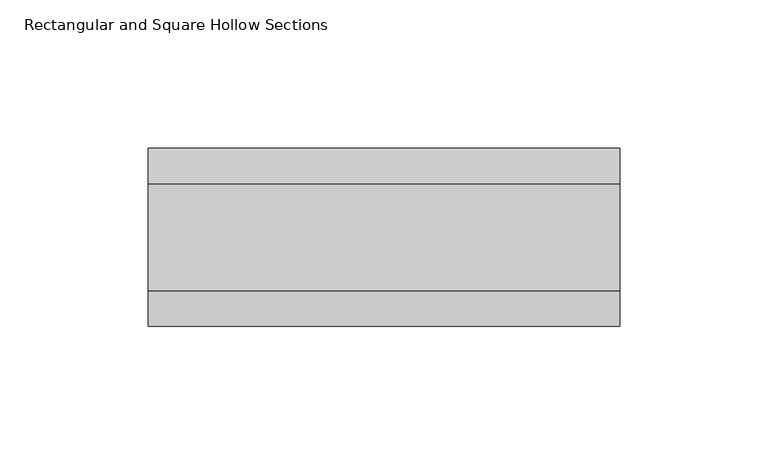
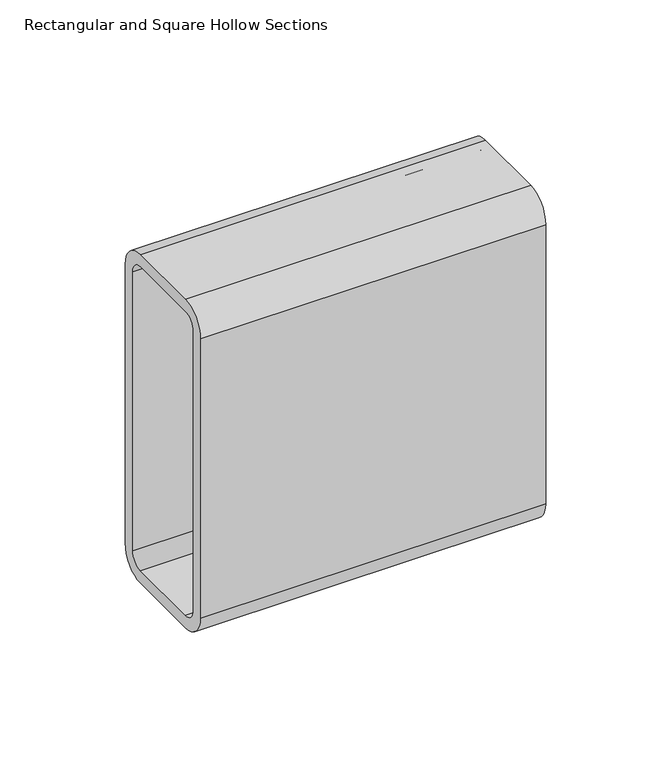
"""IFC4 building model written with IfcOpenShell, lengths in millimetres: beam geometry, Rectangular and Square Hollow Sections : TREC160x60x6."""

from ifc_helpers import new_model, si_unit, point, frame, frame_2d, origin, place, context, project, spatial, polyline, circle_curve, trimmed, segment, composite_curve, outline, extrude, source, transform, mapped, element, save


def rectangular_and_square_hollow_sections_a0dfe2d4(model_context):
    return source(origin(), model_context, "Body", "SweptSolid", [
        extrude(outline(composite_curve([segment(polyline([(30.0, 68.0), (30.0, -68.0)]), True, "CONTINUOUS"), segment(trimmed(circle_curve(frame_2d((18.0, -68.0)), 12.0), [point((30.0, -68.0))], [point((18.0, -80.0))], False, "CARTESIAN"), True, "CONTINUOUS"), segment(polyline([(18.0, -80.0), (-18.0, -80.0)]), True, "CONTINUOUS"), segment(trimmed(circle_curve(frame_2d((-18.0, -68.0)), 12.0), [point((-18.0, -80.0))], [point((-30.0, -68.0))], False, "CARTESIAN"), True, "CONTINUOUS"), segment(polyline([(-30.0, -68.0), (-30.0, 68.0)]), True, "CONTINUOUS"), segment(trimmed(circle_curve(frame_2d((-18.0, 68.0)), 12.0), [point((-30.0, 68.0))], [point((-18.0, 80.0))], False, "CARTESIAN"), True, "CONTINUOUS"), segment(polyline([(-18.0, 80.0), (18.0, 80.0)]), True, "CONTINUOUS"), segment(trimmed(circle_curve(frame_2d((18.0, 68.0)), 12.0), [point((18.0, 80.0))], [point((30.0, 68.0))], False, "CARTESIAN"), True, "CONTINUOUS")], self_intersect=False), holes=[composite_curve([segment(trimmed(circle_curve(frame_2d((-18.0, 68.0)), 6.0), [point((-18.0, 74.0))], [point((-24.0, 68.0))], True, "CARTESIAN"), True, "CONTINUOUS"), segment(polyline([(-24.0, 68.0), (-24.0, -68.0)]), True, "CONTINUOUS"), segment(trimmed(circle_curve(frame_2d((-18.0, -68.0)), 6.0), [point((-24.0, -68.0))], [point((-18.0, -74.0))], True, "CARTESIAN"), True, "CONTINUOUS"), segment(polyline([(-18.0, -74.0), (18.0, -74.0)]), True, "CONTINUOUS"), segment(trimmed(circle_curve(frame_2d((18.0, -68.0)), 6.0), [point((18.0, -74.0))], [point((24.0, -68.0))], True, "CARTESIAN"), True, "CONTINUOUS"), segment(polyline([(24.0, -68.0), (24.0, 68.0)]), True, "CONTINUOUS"), segment(trimmed(circle_curve(frame_2d((18.0, 68.0)), 6.0), [point((24.0, 68.0))], [point((18.0, 74.0))], True, "CARTESIAN"), True, "CONTINUOUS"), segment(polyline([(18.0, 74.0), (-18.0, 74.0)]), True, "CONTINUOUS")], self_intersect=False)]), frame((-73.0, 0.0, 0.0), z_axis=(1.0, 0.0, 0.0), x_axis=(0.0, 1.0, 0.0)), (0.0, 0.0, 1.0), 159.0),
    ])


if __name__ == "__main__":
    model = new_model("IFC4")
    model_context = context("Model", 3, world=origin())
    ifc_project = project(units=[si_unit("LENGTHUNIT", "METRE", prefix="MILLI")], contexts=[model_context])
    site = spatial("IfcSite", under=ifc_project)
    building = spatial("IfcBuilding", under=site)
    placement = place(None, origin())
    rectangular_and_square_hollow_sections_shape = rectangular_and_square_hollow_sections_a0dfe2d4(model_context)
    element("IfcBeam", 1, ObjectType="Rectangular and Square Hollow Sections : TREC160x60x6", at=placement, inside=building, context=model_context, shape_type="MappedRepresentation", body=[
        mapped(rectangular_and_square_hollow_sections_shape, transform((0.0, 0.0, 0.0), x_axis=(1.0, 0.0, 0.0), y_axis=(0.0, 1.0, 0.0), z_axis=(0.0, 0.0, 1.0))),
    ])
    save(model, "model.ifc")
